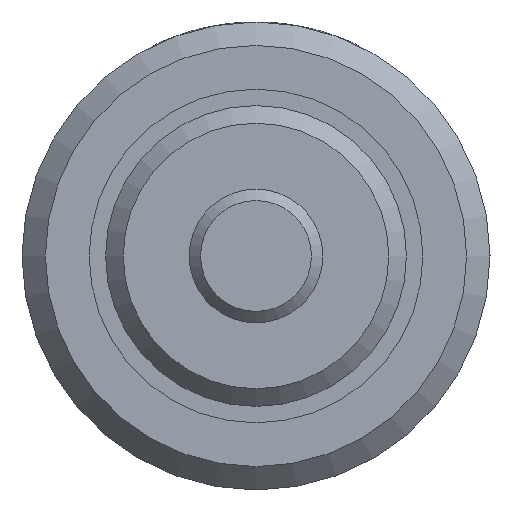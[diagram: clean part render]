
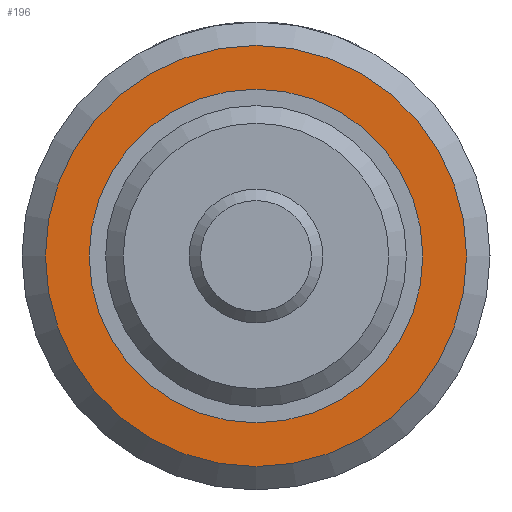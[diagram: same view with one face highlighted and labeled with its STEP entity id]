
A CAD part, left-side view. The second image highlights one B-rep face of the part: STEP entity #196.
In plain terms, the highlighted planar face has unit normal (-1, 0, 0).
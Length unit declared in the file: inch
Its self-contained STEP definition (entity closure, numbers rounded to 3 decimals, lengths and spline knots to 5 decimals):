
#196 = ADVANCED_FACE( '', ( #411, #412 ), #413, .F. );
#411 = FACE_OUTER_BOUND( '', #659, .T. );
#412 = FACE_BOUND( '', #660, .T. );
#413 = PLANE( '', #661 );
#659 = EDGE_LOOP( '', ( #995 ) );
#660 = EDGE_LOOP( '', ( #996 ) );
#661 = AXIS2_PLACEMENT_3D( '', #997, #998, #999 );
#995 = ORIENTED_EDGE( '', *, *, #1316, .F. );
#996 = ORIENTED_EDGE( '', *, *, #1273, .T. );
#997 = CARTESIAN_POINT( '', ( 0.5, 0.312, 0. ) );
#998 = DIRECTION( '', ( 1., 0., 0. ) );
#999 = DIRECTION( '', ( 0., 0., -1. ) );
#1273 = EDGE_CURVE( '', #1464, #1464, #1465, .T. );
#1316 = EDGE_CURVE( '', #1533, #1533, #1534, .T. );
#1464 = VERTEX_POINT( '', #1801 );
#1465 = CIRCLE( '', #1802, 0.312 );
#1533 = VERTEX_POINT( '', #1903 );
#1534 = CIRCLE( '', #1904, 0.39375 );
#1801 = CARTESIAN_POINT( '', ( 0.5, 0., -0.312 ) );
#1802 = AXIS2_PLACEMENT_3D( '', #2214, #2215, #2216 );
#1903 = CARTESIAN_POINT( '', ( 0.5, 0., -0.39375 ) );
#1904 = AXIS2_PLACEMENT_3D( '', #2286, #2287, #2288 );
#2214 = CARTESIAN_POINT( '', ( 0.5, 0., 0. ) );
#2215 = DIRECTION( '', ( 1., 0., 0. ) );
#2216 = DIRECTION( '', ( 0., 0., -1. ) );
#2286 = CARTESIAN_POINT( '', ( 0.5, 0., 0. ) );
#2287 = DIRECTION( '', ( 1., 0., 0. ) );
#2288 = DIRECTION( '', ( 0., 0., -1. ) );
